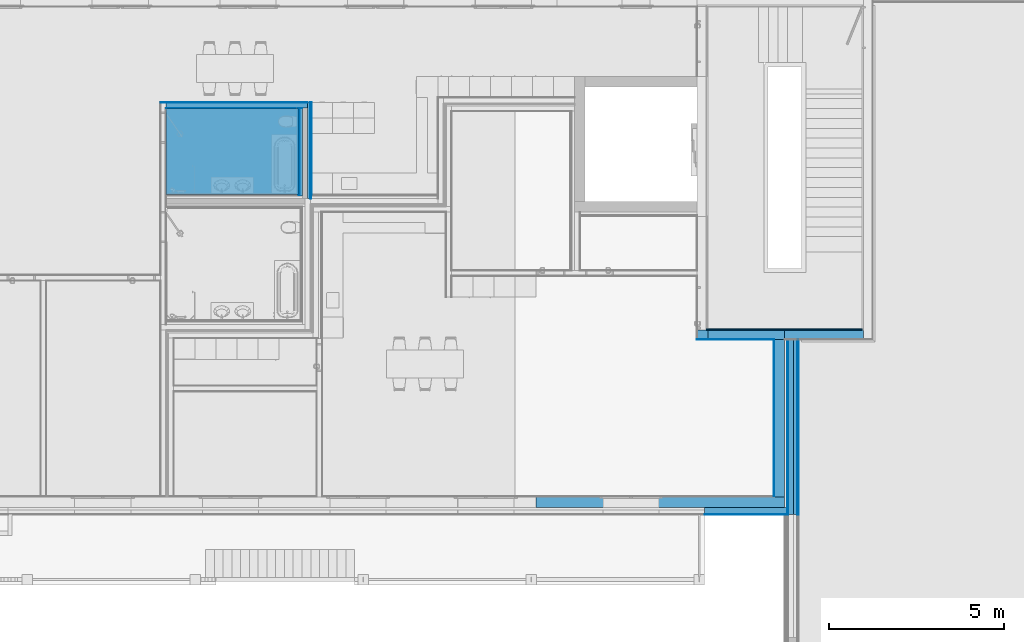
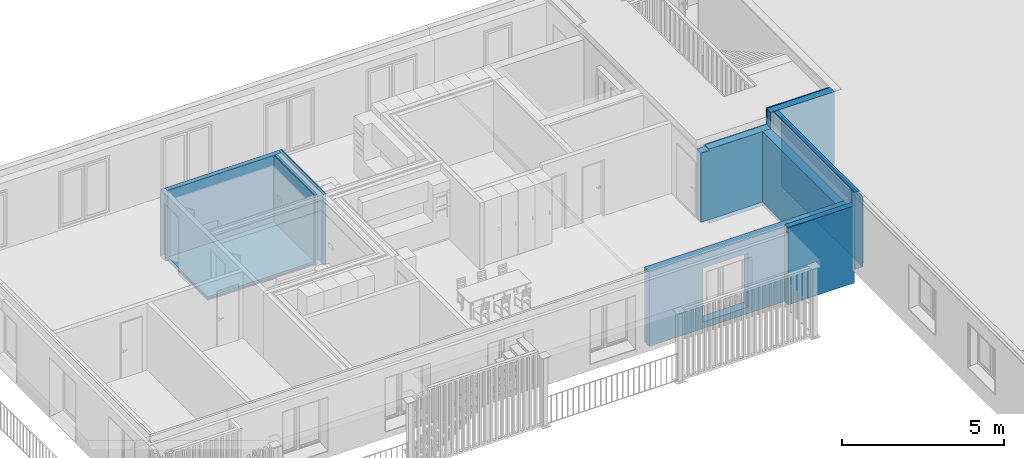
# One storey, part 13 of 34: 30 building element parts, 1 opening, 10 elements without a shape of their own.
"""IFC4 building model written with IfcOpenShell, lengths in millimetres."""

from ifc_helpers import new_model, entity, si_unit, converted_unit, derived_unit, direction, frame, origin_with_axes, place, context, subcontext, project, spatial, polygons, material, type_object, element, aggregate, save


model = new_model("IFC4")

# Units and contexts
model_context = context("Model", 3, precision=0.01, world=origin_with_axes(), true_north=direction((0.0, 1.0)))
body_context = subcontext(model_context, "Body", "Model", "MODEL_VIEW")
ifc_project = project(units=[si_unit("LENGTHUNIT", "METRE", prefix="MILLI"), si_unit("AREAUNIT", "SQUARE_METRE"), si_unit("VOLUMEUNIT", "CUBIC_METRE"), converted_unit("PLANEANGLEUNIT", "DEGREE", entity("IfcPlaneAngleMeasure", 0.0174532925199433), si_unit("PLANEANGLEUNIT", "RADIAN"), dimensions=[0, 0, 0, 0, 0, 0, 0]), converted_unit("TIMEUNIT", "Year", entity("IfcTimeMeasure", 31557600.0), si_unit("TIMEUNIT", "SECOND"), dimensions=[0, 0, 1, 0, 0, 0, 0]), si_unit("MASSUNIT", "GRAM", prefix="KILO"), si_unit("THERMODYNAMICTEMPERATUREUNIT", "DEGREE_CELSIUS"), si_unit("LUMINOUSINTENSITYUNIT", "LUMEN"), si_unit("ENERGYUNIT", "JOULE", prefix="MEGA"), derived_unit("THERMALCONDUCTANCEUNIT", [(si_unit("POWERUNIT", "WATT"), 1), (si_unit("LENGTHUNIT", "METRE"), -1), (si_unit("THERMODYNAMICTEMPERATUREUNIT", "KELVIN"), -1)]), derived_unit("SPECIFICHEATCAPACITYUNIT", [(si_unit("ENERGYUNIT", "JOULE"), 1), (si_unit("MASSUNIT", "GRAM", prefix="KILO"), -1), (si_unit("THERMODYNAMICTEMPERATUREUNIT", "KELVIN"), -1)]), derived_unit("MASSDENSITYUNIT", [(si_unit("MASSUNIT", "GRAM", prefix="KILO"), 1), (si_unit("VOLUMEUNIT", "CUBIC_METRE"), -1)])], contexts=[model_context])

# Site, building, storey
site_placement = place(None, origin_with_axes())
site = spatial("IfcSite", under=ifc_project, at=site_placement, Name="Gelände", CompositionType="ELEMENT")
building_placement = place(site_placement, origin_with_axes())
building = spatial("IfcBuilding", under=site, at=building_placement, Name="Gebäude", CompositionType="ELEMENT")
storey_placement = place(building_placement, frame((0.0, 0.0, 2900.0), z_axis=(0.0, 0.0, 1.0), x_axis=(1.0, 0.0, 0.0)))
storey = spatial("IfcBuildingStorey", under=building, at=storey_placement, Name="1.OG", CompositionType="ELEMENT", Elevation=2900.0)

# Wall, building element parts
wall_type_1 = type_object("IfcWallType", Name="Innenwand Typ 10 310", PredefinedType="NOTDEFINED")
wall_1_placement = place(storey_placement, frame((17919.99744477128, 28247.59728131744, 0.0), z_axis=(0.0, 0.0, 1.0), x_axis=(1.0, 0.0, 0.0)))
wall_1 = element("IfcWall", 1, at=wall_1_placement, inside=storey, type_object=wall_type_1, Name="Wand-014", PredefinedType="NOTDEFINED")
ifc_material_1 = material(Name="Sichtbeton")
building_element_part_1_placement = place(wall_1_placement, origin_with_axes())
building_element_part_1 = element("IfcBuildingElementPart", 2, at=building_element_part_1_placement, material=ifc_material_1, Name="Sichtbeton", PredefinedType="NOTDEFINED", context=body_context, shape_type="Tessellation", body=[
    polygons([(0.0, 0.0, 3399.999999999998), (0.0, -39.99999999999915, 3399.999999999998), (2209.0, -39.99999999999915, 3399.999999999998), (2209.0, 0.0, 3399.999999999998), (0.0, 0.0, 0.0), (0.0, -39.99999999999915, 0.0), (2209.0, -39.99999999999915, 0.0), (2209.0, 0.0, 0.0)], [[[1, 2, 3, 4]], [[5, 6, 2, 1]], [[6, 7, 3, 2]], [[7, 8, 4, 3]], [[5, 1, 4, 8]], [[6, 5, 8, 7]]], closed=True),
])
ifc_material_2 = material(Name="Beton bewehrt")
building_element_part_2_placement = place(wall_1_placement, origin_with_axes())
building_element_part_2 = element("IfcBuildingElementPart", 3, at=building_element_part_2_placement, material=ifc_material_2, Name="Beton bewehrt", PredefinedType="NOTDEFINED", context=body_context, shape_type="Tessellation", body=[
    polygons([(0.0, -39.99999999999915, 3399.999999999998), (0.0, -300.0000000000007, 3399.999999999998), (2248.999999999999, -300.0000000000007, 3399.999999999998), (2248.999999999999, -39.99999999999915, 3399.999999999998), (0.0, -39.99999999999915, 0.0), (0.0, -300.0000000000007, 0.0), (2248.999999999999, -300.0000000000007, 0.0), (2248.999999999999, -39.99999999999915, 0.0)], [[[1, 2, 3, 4]], [[5, 6, 2, 1]], [[6, 7, 3, 2]], [[7, 8, 4, 3]], [[5, 1, 4, 8]], [[6, 5, 8, 7]]], closed=True),
])
aggregate(wall_1, [building_element_part_1, building_element_part_2])

# Curtain wall, building element parts
curtain_wall_type = type_object("IfcCurtainWallType", Name="Fassade Typ 01 - Kompaktfassade 210", PredefinedType="NOTDEFINED")
curtain_wall_placement = place(storey_placement, frame((15637.99581849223, 22947.59674077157, 0.0), z_axis=(0.0, 0.0, 1.0), x_axis=(1.0, 0.0, 0.0)))
curtain_wall = element("IfcCurtainWall", 4, at=curtain_wall_placement, inside=storey, type_object=curtain_wall_type, Name="Wand-014", PredefinedType="NOTDEFINED")
ifc_material_3 = material(Name="Zementputz Aussen")
building_element_part_3_placement = place(curtain_wall_placement, origin_with_axes())
building_element_part_3 = element("IfcBuildingElementPart", 5, at=building_element_part_3_placement, material=ifc_material_3, Name="Zementputz Aussen", PredefinedType="NOTDEFINED", context=body_context, shape_type="Tessellation", body=[
    polygons([(2362.001626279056, 0.0, 2899.999999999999), (2362.001626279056, 10.00000000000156, 2899.999999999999), (0.0, 10.00000000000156, 2899.999999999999), (0.0, 0.0, 2899.999999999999), (2362.001626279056, 0.0, 0.0), (2362.001626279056, 10.00000000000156, 0.0), (0.0, 10.00000000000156, 0.0), (0.0, 0.0, 0.0)], [[[1, 2, 3, 4]], [[2, 1, 5, 6]], [[2, 6, 7, 3]], [[4, 3, 7, 8]], [[1, 4, 8, 5]], [[6, 5, 8, 7]]], closed=True),
])
ifc_material_4 = material(Name="Dämmung Aussen")
building_element_part_4_placement = place(curtain_wall_placement, origin_with_axes())
building_element_part_4 = element("IfcBuildingElementPart", 6, at=building_element_part_4_placement, material=ifc_material_4, Name="Dämmung Aussen", PredefinedType="NOTDEFINED", context=body_context, shape_type="Tessellation", body=[
    polygons([(0.0, 10.00000000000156, 2899.999999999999), (2362.001626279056, 10.00000000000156, 2899.999999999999), (2362.001626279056, 210.0000000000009, 2899.999999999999), (0.0, 210.0000000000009, 2899.999999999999), (2362.001626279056, 10.00000000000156, 0.0), (0.0, 10.00000000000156, 0.0), (2362.001626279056, 210.0000000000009, 0.0), (0.0, 210.0000000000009, 0.0)], [[[1, 2, 3, 4]], [[5, 2, 1, 6]], [[7, 3, 2, 5]], [[4, 3, 7, 8]], [[6, 1, 4, 8]], [[8, 7, 5, 6]]], closed=True),
])
aggregate(curtain_wall, [building_element_part_3, building_element_part_4])

# Wall, building element parts
wall_type_2 = type_object("IfcWallType", Name="Innenwand Typ 09 310", PredefinedType="NOTDEFINED")
wall_2_placement = place(storey_placement, frame((17919.99744477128, 28247.59728131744, 0.0), z_axis=(0.0, 0.0, 1.0), x_axis=(0.0, -1.0, 0.0)))
wall_2 = element("IfcWall", 7, at=wall_2_placement, inside=storey, type_object=wall_type_2, Name="Wand-014", PredefinedType="NOTDEFINED")
building_element_part_5_placement = place(wall_2_placement, origin_with_axes())
building_element_part_5 = element("IfcBuildingElementPart", 8, at=building_element_part_5_placement, material=ifc_material_2, Name="Beton bewehrt", PredefinedType="NOTDEFINED", context=body_context, shape_type="Tessellation", body=[
    polygons([(4790.000540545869, -300.0000000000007, 2799.999948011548), (4790.000540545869, -1.147749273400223e-05, 2799.999948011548), (300.0000000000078, 0.0, 2799.999948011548), (300.0000000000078, -300.0000000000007, 2799.999948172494), (4790.000540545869, -1.147749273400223e-05, 499.9999999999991), (4790.000540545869, -300.0000000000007, 0.0), (4790.000540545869, 0.0, 0.0), (300.0000000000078, 0.0, 0.0), (300.0000000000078, -300.0000000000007, 0.0)], [[[1, 2, 3, 4]], [[5, 2, 1, 6, 7]], [[2, 5, 7, 8, 3]], [[4, 3, 8, 9]], [[1, 4, 9, 6]], [[9, 8, 7, 6]]], closed=True),
])
ifc_material_5 = material(Name="Kalkzementputz Aussen")
building_element_part_6_placement = place(wall_2_placement, origin_with_axes())
building_element_part_6 = element("IfcBuildingElementPart", 9, at=building_element_part_6_placement, material=ifc_material_5, Name="Kalkzementputz Aussen", PredefinedType="NOTDEFINED", context=body_context, shape_type="Tessellation", body=[
    polygons([(4780.000540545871, -300.0000000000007, 149.9999999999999), (310.0000000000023, -299.9999999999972, 149.9999999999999), (310.0000000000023, -300.0000000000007, 2799.999948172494), (4780.000540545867, -300.0000000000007, 2799.999948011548), (310.0000000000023, -309.9999999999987, 149.9999999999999), (4780.000540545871, -310.0000000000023, 149.9999999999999), (310.0000000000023, -309.9999999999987, 2799.99994817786), (4780.000540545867, -310.0000000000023, 2799.999948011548)], [[[1, 2, 3, 4]], [[5, 2, 1, 6]], [[2, 5, 7, 3]], [[7, 8, 4, 3]], [[6, 1, 4, 8]], [[5, 6, 8, 7]]], closed=True),
])
aggregate(wall_2, [building_element_part_5, building_element_part_6])

wall_3_placement = place(storey_placement, frame((15728.99744477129, 28247.59728131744, 0.0), z_axis=(0.0, 0.0, 1.0), x_axis=(1.0, 0.0, 0.0)))
wall_3 = element("IfcWall", 10, at=wall_3_placement, inside=storey, type_object=wall_type_1, Name="Wand-014", PredefinedType="NOTDEFINED")
building_element_part_7_placement = place(wall_3_placement, origin_with_axes())
building_element_part_7 = element("IfcBuildingElementPart", 11, at=building_element_part_7_placement, material=ifc_material_1, Name="Sichtbeton", PredefinedType="NOTDEFINED", context=body_context, shape_type="Tessellation", body=[
    polygons([(-40.00000000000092, 0.0, 149.9999999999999), (-40.00000000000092, 0.0, 2750.0), (0.0, 0.0, 2750.0), (0.0, 0.0, 2799.999949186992), (2190.999999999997, 0.0, 2799.999948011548), (2190.999999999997, 0.0, 0.0), (0.0, 0.0, 0.0), (0.0, 0.0, 149.9999999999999), (-40.00000000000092, -39.99999999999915, 2750.0), (-40.00000000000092, -39.99999999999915, 149.9999999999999), (0.0, -39.99999999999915, 2750.0), (0.0, -39.99999999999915, 2799.999949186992), (2190.999999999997, -39.99999999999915, 2799.999948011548), (2190.999999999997, -39.99999999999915, 0.0), (0.0, -39.99999999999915, 0.0), (0.0, -39.99999999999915, 149.9999999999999)], [[[1, 2, 3, 4, 5, 6, 7, 8]], [[9, 2, 1, 10]], [[2, 9, 11, 3]], [[11, 12, 4, 3]], [[5, 4, 12, 13]], [[13, 14, 6, 5]], [[14, 15, 7, 6]], [[16, 8, 7, 15]], [[10, 1, 8, 16]], [[9, 10, 16, 15, 14, 13, 12, 11]]], closed=True),
])
building_element_part_8_placement = place(wall_3_placement, origin_with_axes())
building_element_part_8 = element("IfcBuildingElementPart", 12, at=building_element_part_8_placement, material=ifc_material_2, Name="Beton bewehrt", PredefinedType="NOTDEFINED", context=body_context, shape_type="Tessellation", body=[
    polygons([(-300.0000000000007, -39.99999999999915, 149.9999999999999), (-300.0000000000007, -39.99999999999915, 2750.0), (0.0, -39.99999999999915, 2750.0), (0.0, -39.99999999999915, 2799.999949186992), (2190.999999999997, -39.99999999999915, 2799.999948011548), (2190.999999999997, -39.99999999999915, 0.0), (0.0, -39.99999999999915, 0.0), (0.0, -39.99999999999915, 149.9999999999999), (-300.0000000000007, -300.0000000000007, 2750.0), (-300.0000000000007, -300.0000000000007, 149.9999999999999), (0.0, -300.0000000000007, 2750.0), (0.0, -300.0000000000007, 2799.999949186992), (2190.999999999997, -300.0000000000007, 2799.999948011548), (2190.999999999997, -300.0000000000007, 0.0), (0.0, -300.0000000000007, 0.0), (0.0, -300.0000000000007, 149.9999999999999)], [[[1, 2, 3, 4, 5, 6, 7, 8]], [[9, 2, 1, 10]], [[2, 9, 11, 3]], [[11, 12, 4, 3]], [[5, 4, 12, 13]], [[13, 14, 6, 5]], [[14, 15, 7, 6]], [[16, 8, 7, 15]], [[10, 1, 8, 16]], [[9, 10, 16, 15, 14, 13, 12, 11]]], closed=True),
])
building_element_part_9_placement = place(wall_3_placement, origin_with_axes())
building_element_part_9 = element("IfcBuildingElementPart", 13, at=building_element_part_9_placement, material=ifc_material_5, Name="Kalkzementputz Aussen", PredefinedType="NOTDEFINED", context=body_context, shape_type="Tessellation", body=[
    polygons([(1891.0, -309.9999999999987, 149.9999999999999), (1891.0, -299.9999999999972, 149.9999999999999), (1890.999999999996, -300.0000000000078, 2799.999948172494), (1890.999999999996, -309.9999999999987, 2799.999948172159), (0.0, -299.9999999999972, 149.9999999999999), (0.0, -309.9999999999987, 149.9999999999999), (-310.0000000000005, -309.9999999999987, 149.9999999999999), (-310.0000000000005, -300.0000000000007, 149.9999999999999), (-310.0000000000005, -300.0000000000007, 2750.0), (0.0, -300.0000000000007, 2750.0), (0.0, -300.0000000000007, 2799.999949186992), (0.0, -309.9999999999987, 2799.999949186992), (0.0, -309.9999999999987, 2750.0), (-310.0000000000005, -309.9999999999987, 2750.0)], [[[1, 2, 3, 4]], [[5, 2, 1, 6, 7, 8]], [[2, 5, 8, 9, 10, 11, 3]], [[12, 4, 3, 11]], [[6, 1, 4, 12, 13, 14, 7]], [[8, 7, 14, 9]], [[10, 9, 14, 13]], [[10, 13, 12, 11]]], closed=True),
])
aggregate(wall_3, [building_element_part_7, building_element_part_8, building_element_part_9])

# Covering, building element parts
covering_type = type_object("IfcCoveringType", Name="Bodenaufbau Typ 02 150", PredefinedType="NOTDEFINED")
covering_placement = place(storey_placement, frame((282.9958184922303, 32077.59728131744, 0.0), z_axis=(0.0, 0.0, 1.0), x_axis=(1.0, 0.0, 0.0)))
covering = element("IfcCovering", 14, at=covering_placement, inside=storey, type_object=covering_type, Name="Decke-007", PredefinedType="NOTDEFINED")
ifc_material_6 = material(Name="Keramik")
building_element_part_10_placement = place(covering_placement, origin_with_axes())
building_element_part_10 = element("IfcBuildingElementPart", 15, at=building_element_part_10_placement, material=ifc_material_6, Name="Keramik", PredefinedType="NOTDEFINED", context=body_context, shape_type="Tessellation", body=[
    polygons([(3767.777730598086, 0.0, 134.9999999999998), (3767.777730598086, 0.0, 149.9999999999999), (0.0, 0.0, 149.9999999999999), (0.0, 0.0, 134.9999999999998), (3767.777730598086, 2456.466406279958, 134.9999999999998), (3767.777730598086, 2456.466406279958, 149.9999999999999), (0.0, 2456.466406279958, 149.9999999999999), (0.0, 2456.466406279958, 134.9999999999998)], [[[1, 2, 3, 4]], [[5, 6, 2, 1]], [[3, 2, 6, 7]], [[4, 3, 7, 8]], [[4, 8, 5, 1]], [[8, 7, 6, 5]]], closed=True),
])
ifc_material_7 = material(Name="Unterlagsboden")
building_element_part_11_placement = place(covering_placement, origin_with_axes())
building_element_part_11 = element("IfcBuildingElementPart", 16, at=building_element_part_11_placement, material=ifc_material_7, Name="Unterlagsboden", PredefinedType="NOTDEFINED", context=body_context, shape_type="Tessellation", body=[
    polygons([(3767.777730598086, 0.0, 79.99999999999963), (3767.777730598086, 0.0, 134.9999999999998), (0.0, 0.0, 134.9999999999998), (0.0, 0.0, 79.99999999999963), (3767.777730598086, 2456.466406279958, 79.99999999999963), (3767.777730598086, 2456.466406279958, 134.9999999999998), (0.0, 2456.466406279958, 134.9999999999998), (0.0, 2456.466406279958, 79.99999999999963)], [[[1, 2, 3, 4]], [[5, 6, 2, 1]], [[3, 2, 6, 7]], [[4, 3, 7, 8]], [[4, 8, 5, 1]], [[8, 7, 6, 5]]], closed=True),
])
ifc_material_8 = material(Name="Trittschalldämmung")
building_element_part_12_placement = place(covering_placement, origin_with_axes())
building_element_part_12 = element("IfcBuildingElementPart", 17, at=building_element_part_12_placement, material=ifc_material_8, Name="Trittschalldämmung", PredefinedType="NOTDEFINED", context=body_context, shape_type="Tessellation", body=[
    polygons([(3767.777730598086, 0.0, 50.00000000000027), (3767.777730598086, 0.0, 80.00000000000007), (0.0, 0.0, 80.00000000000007), (0.0, 0.0, 50.00000000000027), (3767.777730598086, 2456.466406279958, 50.00000000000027), (3767.777730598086, 2456.466406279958, 80.00000000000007), (0.0, 2456.466406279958, 80.00000000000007), (0.0, 2456.466406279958, 50.00000000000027)], [[[1, 2, 3, 4]], [[5, 6, 2, 1]], [[3, 2, 6, 7]], [[4, 3, 7, 8]], [[4, 8, 5, 1]], [[8, 7, 6, 5]]], closed=True),
])
ifc_material_9 = material(Name="Dämmung Innen")
building_element_part_13_placement = place(covering_placement, origin_with_axes())
building_element_part_13 = element("IfcBuildingElementPart", 18, at=building_element_part_13_placement, material=ifc_material_9, Name="Dämmung Innen", PredefinedType="NOTDEFINED", context=body_context, shape_type="Tessellation", body=[
    polygons([(0.0, 0.0, 0.0), (3767.777730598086, 0.0, 0.0), (3767.777730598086, 0.0, 49.99999999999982), (0.0, 0.0, 49.99999999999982), (0.0, 2456.466406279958, 0.0), (3767.777730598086, 2456.466406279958, 0.0), (3767.777730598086, 2456.466406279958, 49.99999999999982), (0.0, 2456.466406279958, 49.99999999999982)], [[[1, 2, 3, 4]], [[1, 5, 6, 2]], [[2, 6, 7, 3]], [[4, 3, 7, 8]], [[5, 1, 4, 8]], [[6, 5, 8, 7]]], closed=True),
])
aggregate(covering, [building_element_part_10, building_element_part_11, building_element_part_12, building_element_part_13])

# Wall, building element parts
wall_type_3 = type_object("IfcWallType", Name="Innenwand Typ 05 170", PredefinedType="NOTDEFINED")
wall_4_placement = place(storey_placement, frame((122.9958184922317, 34704.06370406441, 0.0), z_axis=(0.0, 0.0, 1.0), x_axis=(1.0, 0.0, 0.0)))
wall_4 = element("IfcWall", 19, at=wall_4_placement, inside=storey, type_object=wall_type_3, Name="Wand-014", PredefinedType="NOTDEFINED")
building_element_part_14_placement = place(wall_4_placement, origin_with_axes())
building_element_part_14 = element("IfcBuildingElementPart", 20, at=building_element_part_14_placement, material=ifc_material_5, Name="Kalkzementputz Aussen", PredefinedType="NOTDEFINED", context=body_context, shape_type="Tessellation", body=[
    polygons([(4192.777730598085, -9.99999999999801, 149.9999999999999), (4192.777730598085, 0.0, 149.9999999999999), (4192.777730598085, 0.0, 2649.999948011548), (4192.777730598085, -9.99999999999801, 2649.999948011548), (0.0, -9.99999999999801, 149.9999999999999), (0.0, 0.0, 149.9999999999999), (0.0, 0.0, 2649.999948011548), (0.0, -9.99999999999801, 2649.999948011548)], [[[1, 2, 3, 4]], [[2, 1, 5, 6]], [[2, 6, 7, 3]], [[4, 3, 7, 8]], [[1, 4, 8, 5]], [[6, 5, 8, 7]]], closed=True),
])
ifc_material_10 = material(Name="MW, Backstein")
building_element_part_15_placement = place(wall_4_placement, origin_with_axes())
building_element_part_15 = element("IfcBuildingElementPart", 21, at=building_element_part_15_placement, material=ifc_material_10, Name="MW, Backstein", PredefinedType="NOTDEFINED", context=body_context, shape_type="Tessellation", body=[
    polygons([(4192.777730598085, -9.99999999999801, 2649.999948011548), (150.0, -9.99999999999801, 2649.999948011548), (150.0, -159.9999999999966, 2649.999948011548), (4192.777730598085, -159.9999999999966, 2649.999948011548), (4192.777730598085, -9.99999999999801, 0.0), (150.0, -9.99999999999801, 0.0), (150.0, -159.9999999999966, 0.0), (4192.777730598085, -159.9999999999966, 0.0)], [[[1, 2, 3, 4]], [[5, 6, 2, 1]], [[3, 2, 6, 7]], [[4, 3, 7, 8]], [[4, 8, 5, 1]], [[8, 7, 6, 5]]], closed=True),
])
building_element_part_16_placement = place(wall_4_placement, origin_with_axes())
building_element_part_16 = element("IfcBuildingElementPart", 22, at=building_element_part_16_placement, material=ifc_material_5, Name="Kalkzementputz Aussen", PredefinedType="NOTDEFINED", context=body_context, shape_type="Tessellation", body=[
    polygons([(4042.777730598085, -170.0000000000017, 149.9999999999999), (4042.777730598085, -159.9999999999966, 149.9999999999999), (4042.777730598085, -159.9999999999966, 2649.999948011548), (4042.777730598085, -170.0000000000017, 2649.999948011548), (3927.777730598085, -159.9999999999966, 149.9999999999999), (3927.777730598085, -170.0000000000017, 149.9999999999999), (3927.777730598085, -159.9999999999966, 0.0), (160.0000000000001, -159.9999999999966, 0.0), (160.0000000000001, -159.9999999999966, 2649.999948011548), (160.0000000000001, -170.0000000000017, 2649.999948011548), (160.0000000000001, -170.0000000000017, 0.0), (3927.777730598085, -170.0000000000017, 0.0)], [[[1, 2, 3, 4]], [[5, 2, 1, 6]], [[5, 7, 8, 9, 3, 2]], [[4, 3, 9, 10]], [[6, 1, 4, 10, 11, 12]], [[5, 6, 12, 7]], [[7, 12, 11, 8]], [[11, 10, 9, 8]]], closed=True),
])
aggregate(wall_4, [building_element_part_14, building_element_part_15, building_element_part_16])

wall_type_4 = type_object("IfcWallType", Name="Vorsatzschale 01 115", PredefinedType="NOTDEFINED")
wall_5_placement = place(storey_placement, frame((4050.773549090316, 32077.59728131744, 0.0), z_axis=(0.0, 0.0, 1.0), x_axis=(0.0, 1.0, 0.0)))
wall_5 = element("IfcWall", 23, at=wall_5_placement, inside=storey, type_object=wall_type_4, Name="Wand-014", PredefinedType="NOTDEFINED")
building_element_part_17_placement = place(wall_5_placement, origin_with_axes())
building_element_part_17 = element("IfcBuildingElementPart", 24, at=building_element_part_17_placement, material=ifc_material_5, Name="Kalkzementputz Aussen", PredefinedType="NOTDEFINED", context=body_context, shape_type="Tessellation", body=[
    polygons([(2456.466422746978, -9.999999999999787, 2649.999948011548), (2456.466422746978, 0.0, 2649.999948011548), (0.0, 0.0, 2649.999948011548), (0.0, -9.999999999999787, 2649.999948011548), (2456.466422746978, -9.999999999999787, 0.0), (2456.466422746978, 0.0, 0.0), (0.0, 0.0, 0.0), (0.0, -9.999999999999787, 0.0)], [[[1, 2, 3, 4]], [[1, 5, 6, 2]], [[2, 6, 7, 3]], [[4, 3, 7, 8]], [[5, 1, 4, 8]], [[6, 5, 8, 7]]], closed=True),
])
ifc_material_11 = material(Name="Gipskartonplatte GKP")
building_element_part_18_placement = place(wall_5_placement, origin_with_axes())
building_element_part_18 = element("IfcBuildingElementPart", 25, at=building_element_part_18_placement, material=ifc_material_11, Name="Gipskartonplatte GKP", PredefinedType="NOTDEFINED", context=body_context, shape_type="Tessellation", body=[
    polygons([(2456.466422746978, -22.49999999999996, 2649.999948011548), (2456.466422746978, -9.999999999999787, 2649.999948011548), (-9.99999999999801, -9.999999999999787, 2649.999948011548), (-9.99999999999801, -22.49999999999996, 2649.999948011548), (2456.466422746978, -22.49999999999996, 0.0), (2456.466422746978, -9.999999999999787, 0.0), (-9.99999999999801, -9.999999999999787, 0.0), (-9.99999999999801, -22.49999999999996, 0.0)], [[[1, 2, 3, 4]], [[1, 5, 6, 2]], [[2, 6, 7, 3]], [[4, 3, 7, 8]], [[5, 1, 4, 8]], [[6, 5, 8, 7]]], closed=True),
])
building_element_part_19_placement = place(wall_5_placement, origin_with_axes())
building_element_part_19 = element("IfcBuildingElementPart", 26, at=building_element_part_19_placement, material=ifc_material_11, Name="Gipskartonplatte GKP", PredefinedType="NOTDEFINED", context=body_context, shape_type="Tessellation", body=[
    polygons([(2456.466422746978, -35.00000000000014, 2649.999948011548), (2456.466422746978, -22.49999999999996, 2649.999948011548), (-22.50000000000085, -22.49999999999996, 2649.999948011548), (-22.50000000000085, -35.00000000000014, 2649.999948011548), (2456.466422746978, -35.00000000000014, 0.0), (2456.466422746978, -22.49999999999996, 0.0), (-22.50000000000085, -22.49999999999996, 0.0), (-22.50000000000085, -35.00000000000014, 0.0)], [[[1, 2, 3, 4]], [[1, 5, 6, 2]], [[2, 6, 7, 3]], [[4, 3, 7, 8]], [[5, 1, 4, 8]], [[6, 5, 8, 7]]], closed=True),
])
ifc_material_12 = material(Name="Ständer Konstruktion gedämmt")
building_element_part_20_placement = place(wall_5_placement, origin_with_axes())
building_element_part_20 = element("IfcBuildingElementPart", 27, at=building_element_part_20_placement, material=ifc_material_12, Name="Ständer Konstruktion gedämmt", PredefinedType="NOTDEFINED", context=body_context, shape_type="Tessellation", body=[
    polygons([(2456.466422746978, -115.0000000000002, 2649.999948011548), (2456.466422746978, -35.00000000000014, 2649.999948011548), (-34.99999999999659, -35.00000000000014, 2649.999948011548), (-34.99999999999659, -115.0000000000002, 2649.999948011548), (2456.466422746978, -115.0000000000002, 0.0), (2456.466422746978, -35.00000000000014, 0.0), (-34.99999999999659, -35.00000000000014, 0.0), (-34.99999999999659, -115.0000000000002, 0.0)], [[[1, 2, 3, 4]], [[1, 5, 6, 2]], [[2, 6, 7, 3]], [[4, 3, 7, 8]], [[5, 1, 4, 8]], [[6, 5, 8, 7]]], closed=True),
])
aggregate(wall_5, [building_element_part_17, building_element_part_18, building_element_part_19, building_element_part_20])

wall_6_placement = place(storey_placement, frame((4430.773549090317, 31962.59728131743, 0.0), z_axis=(0.0, 0.0, 1.0), x_axis=(0.0, 1.0, 0.0)))
wall_6 = element("IfcWall", 28, at=wall_6_placement, inside=storey, type_object=wall_type_4, Name="Wand-014", PredefinedType="NOTDEFINED")
building_element_part_21_placement = place(wall_6_placement, origin_with_axes())
building_element_part_21 = element("IfcBuildingElementPart", 29, at=building_element_part_21_placement, material=ifc_material_12, Name="Ständer Konstruktion gedämmt", PredefinedType="NOTDEFINED", context=body_context, shape_type="Tessellation", body=[
    polygons([(2741.466422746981, 115.0000000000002, 0.0), (2741.466422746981, 35.00000000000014, 0.0), (0.0, 35.00000000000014, 0.0), (0.0, 115.0000000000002, 0.0), (2741.466422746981, 115.0000000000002, 2649.999948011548), (2741.466422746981, 35.00000000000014, 2649.999948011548), (0.0, 35.00000000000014, 2649.999948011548), (0.0, 115.0000000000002, 2649.999948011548)], [[[1, 2, 3, 4]], [[1, 5, 6, 2]], [[2, 6, 7, 3]], [[4, 3, 7, 8]], [[5, 1, 4, 8]], [[6, 5, 8, 7]]], closed=True),
])
building_element_part_22_placement = place(wall_6_placement, origin_with_axes())
building_element_part_22 = element("IfcBuildingElementPart", 30, at=building_element_part_22_placement, material=ifc_material_11, Name="Gipskartonplatte GKP", PredefinedType="NOTDEFINED", context=body_context, shape_type="Tessellation", body=[
    polygons([(2741.466422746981, 35.00000000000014, 0.0), (2741.466422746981, 22.49999999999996, 0.0), (0.0, 22.49999999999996, 0.0), (0.0, 35.00000000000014, 0.0), (2741.466422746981, 35.00000000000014, 2649.999948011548), (2741.466422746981, 22.49999999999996, 2649.999948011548), (0.0, 22.49999999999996, 2649.999948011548), (0.0, 35.00000000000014, 2649.999948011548)], [[[1, 2, 3, 4]], [[1, 5, 6, 2]], [[2, 6, 7, 3]], [[4, 3, 7, 8]], [[5, 1, 4, 8]], [[6, 5, 8, 7]]], closed=True),
])
building_element_part_23_placement = place(wall_6_placement, origin_with_axes())
building_element_part_23 = element("IfcBuildingElementPart", 31, at=building_element_part_23_placement, material=ifc_material_5, Name="Kalkzementputz Aussen", PredefinedType="NOTDEFINED", context=body_context, shape_type="Tessellation", body=[
    polygons([(104.9999999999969, 0.0, 149.9999999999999), (2741.466422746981, 0.0, 149.9999999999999), (2741.466422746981, 0.0, 2649.999948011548), (104.9999999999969, 0.0, 2649.999948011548), (2741.466422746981, 9.999999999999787, 149.9999999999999), (104.9999999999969, 9.999999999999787, 149.9999999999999), (2741.466422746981, 9.999999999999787, 2649.999948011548), (104.9999999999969, 9.999999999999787, 2649.999948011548)], [[[1, 2, 3, 4]], [[5, 2, 1, 6]], [[2, 5, 7, 3]], [[7, 8, 4, 3]], [[6, 1, 4, 8]], [[5, 6, 8, 7]]], closed=True),
])
building_element_part_24_placement = place(wall_6_placement, origin_with_axes())
building_element_part_24 = element("IfcBuildingElementPart", 32, at=building_element_part_24_placement, material=ifc_material_11, Name="Gipskartonplatte GKP", PredefinedType="NOTDEFINED", context=body_context, shape_type="Tessellation", body=[
    polygons([(0.0, 22.49999999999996, 0.0), (2741.466422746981, 22.49999999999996, 0.0), (2741.466422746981, 9.999999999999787, 0.0), (0.0, 9.999999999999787, 0.0), (0.0, 22.49999999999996, 2649.999948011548), (2741.466422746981, 22.49999999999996, 2649.999948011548), (2741.466422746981, 9.999999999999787, 2649.999948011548), (0.0, 9.999999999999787, 2649.999948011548)], [[[1, 2, 3, 4]], [[5, 6, 2, 1]], [[3, 2, 6, 7]], [[4, 3, 7, 8]], [[5, 1, 4, 8]], [[8, 7, 6, 5]]], closed=True),
])
aggregate(wall_6, [building_element_part_21, building_element_part_22, building_element_part_23, building_element_part_24])

wall_type_5 = type_object("IfcWallType", Name="Aussenwand Typ 01 318", PredefinedType="NOTDEFINED")
wall_7_placement = place(storey_placement, frame((17999.99744477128, 27947.49728131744, 500.0), z_axis=(0.0, 0.0, 1.0), x_axis=(0.0, -1.0, 0.0)))
wall_7 = element("IfcWall", 33, at=wall_7_placement, inside=storey, type_object=wall_type_5, Name="Wand-014", PredefinedType="NOTDEFINED")
ifc_material_13 = material(Name="Verputz Innen")
building_element_part_25_placement = place(wall_7_placement, origin_with_axes())
building_element_part_25 = element("IfcBuildingElementPart", 34, at=building_element_part_25_placement, material=ifc_material_13, Name="Verputz Innen", PredefinedType="NOTDEFINED", context=body_context, shape_type="Tessellation", body=[
    polygons([(5000.01281859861, 317.9999999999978, 149.9999999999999), (0.0, 318.0000000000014, 149.9999999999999), (0.0, 318.0000000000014, 2643.999948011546), (5000.01281859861, 317.9999999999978, 2643.999948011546), (0.0, 307.9999999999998, 149.9999999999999), (5000.01281859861, 307.9999999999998, 149.9999999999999), (0.0, 307.9999999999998, 2643.999948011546), (5000.01281859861, 307.9999999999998, 2643.999948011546)], [[[1, 2, 3, 4]], [[5, 2, 1, 6]], [[2, 5, 7, 3]], [[4, 3, 7, 8]], [[6, 1, 4, 8]], [[5, 6, 8, 7]]], closed=True),
])
ifc_material_14 = material(Name="Gipsfaserplatte GFP")
building_element_part_26_placement = place(wall_7_placement, origin_with_axes())
building_element_part_26 = element("IfcBuildingElementPart", 35, at=building_element_part_26_placement, material=ifc_material_14, Name="Gipsfaserplatte GFP", PredefinedType="NOTDEFINED", context=body_context, shape_type="Tessellation", body=[
    polygons([(0.0, 292.9999999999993, 2643.999948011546), (0.0, 307.9999999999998, 2643.999948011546), (0.0, 307.9999999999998, 0.0), (0.0, 292.9999999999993, 0.0), (5000.01281859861, 307.9999999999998, 2643.999948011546), (5000.01281859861, 292.9999999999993, 2643.999948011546), (5000.01281859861, 307.9999999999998, 0.0), (5000.01281859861, 292.9999999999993, 0.0)], [[[1, 2, 3, 4]], [[5, 2, 1, 6]], [[2, 5, 7, 3]], [[3, 7, 8, 4]], [[6, 1, 4, 8]], [[5, 6, 8, 7]]], closed=True),
])
building_element_part_27_placement = place(wall_7_placement, origin_with_axes())
building_element_part_27 = element("IfcBuildingElementPart", 36, at=building_element_part_27_placement, material=ifc_material_14, Name="Gipsfaserplatte GFP", PredefinedType="NOTDEFINED", context=body_context, shape_type="Tessellation", body=[
    polygons([(0.0, 277.9999999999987, 2643.999948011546), (0.0, 292.9999999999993, 2643.999948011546), (0.0, 292.9999999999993, 0.0), (0.0, 277.9999999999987, 0.0), (5000.01281859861, 292.9999999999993, 2643.999948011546), (5000.01281859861, 277.9999999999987, 2643.999948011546), (5000.01281859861, 292.9999999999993, 0.0), (5000.01281859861, 277.9999999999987, 0.0)], [[[1, 2, 3, 4]], [[5, 2, 1, 6]], [[2, 5, 7, 3]], [[3, 7, 8, 4]], [[6, 1, 4, 8]], [[5, 6, 8, 7]]], closed=True),
])
building_element_part_28_placement = place(wall_7_placement, origin_with_axes())
building_element_part_28 = element("IfcBuildingElementPart", 37, at=building_element_part_28_placement, material=ifc_material_12, Name="Ständer Konstruktion gedämmt", PredefinedType="NOTDEFINED", context=body_context, shape_type="Tessellation", body=[
    polygons([(0.0, 177.9999999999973, 2643.999948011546), (0.0, 277.9999999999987, 2643.999948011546), (0.0, 277.9999999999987, 0.0), (0.0, 18.00000000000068, 0.0), (0.0, 18.00000000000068, 2899.999999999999), (0.0, 177.9999999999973, 2899.999948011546), (5000.01281859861, 277.9999999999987, 2643.999948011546), (5000.01281859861, 177.9999999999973, 2643.999948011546), (5000.01281859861, 277.9999999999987, 0.0), (5000.01281859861, 18.00000000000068, 0.0), (5000.01281859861, 18.00000000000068, 2899.999999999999), (5000.01281859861, 177.9999999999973, 2899.999948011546)], [[[1, 2, 3, 4, 5, 6]], [[7, 2, 1, 8]], [[2, 7, 9, 3]], [[3, 9, 10, 4]], [[4, 10, 11, 5]], [[12, 6, 5, 11]], [[8, 1, 6, 12]], [[8, 12, 11, 10, 9, 7]]], closed=True),
])
ifc_material_15 = material(Name="Grobspanplatte-OSB")
building_element_part_29_placement = place(wall_7_placement, origin_with_axes())
building_element_part_29 = element("IfcBuildingElementPart", 38, at=building_element_part_29_placement, material=ifc_material_15, Name="Grobspanplatte-OSB", PredefinedType="NOTDEFINED", context=body_context, shape_type="Tessellation", body=[
    polygons([(5000.01281859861, 18.00000000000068, 0.0), (5000.01281859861, 0.0, 0.0), (0.0, 0.0, 0.0), (0.0, 18.00000000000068, 0.0), (5000.01281859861, 18.00000000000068, 2899.999999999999), (5000.01281859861, 0.0, 2899.999999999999), (0.0, 0.0, 2899.999999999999), (0.0, 18.00000000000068, 2899.999999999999)], [[[1, 2, 3, 4]], [[1, 5, 6, 2]], [[2, 6, 7, 3]], [[4, 3, 7, 8]], [[5, 1, 4, 8]], [[6, 5, 8, 7]]], closed=True),
])
aggregate(wall_7, [building_element_part_25, building_element_part_26, building_element_part_27, building_element_part_28, building_element_part_29])

# Wall, opening, building element part
wall_type_6 = type_object("IfcWallType", Name="Aussenwand Typ 06 310", PredefinedType="NOTDEFINED")
wall_8_placement = place(storey_placement, frame((10828.99744477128, 23157.59674077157, 0.0), z_axis=(0.0, 0.0, 1.0), x_axis=(1.0, 0.0, 0.0)))
wall_8 = element("IfcWall", 39, at=wall_8_placement, inside=storey, type_object=wall_type_6, Name="Wand-014", PredefinedType="NOTDEFINED")
opening_placement = place(wall_8_placement, frame((2711.998373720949, 0.0, 309.999948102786), z_axis=(0.0, 0.0, 1.0), x_axis=(1.0, 0.0, 0.0)))
element("IfcOpeningElement", 40, at=opening_placement, cuts=wall_8, Name="Fenster-004", context=body_context, identifier="Reference", shape_type="Tessellation", body=[
    polygons([(-799.999999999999, 0.0, 1961.999999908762), (800.0000000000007, 0.0, 1961.999999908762), (800.0000000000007, -1.000000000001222, 1961.999999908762), (801.9999999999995, -1.000000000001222, 1961.999999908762), (801.9999999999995, 250.0, 1961.999999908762), (-801.9999999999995, 250.0, 1961.999999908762), (-801.9999999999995, -1.000000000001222, 1961.999999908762), (-799.999999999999, -1.000000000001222, 1961.999999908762), (-799.999999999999, 0.0, 2249.999999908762), (800.0000000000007, 0.0, 2249.999999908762), (800.0000000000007, -149.9999999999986, 2249.999999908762), (800.0000000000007, -149.9999999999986, 1959.999999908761), (800.0000000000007, -1.000000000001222, 1959.999999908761), (-799.999999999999, -1.000000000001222, 1959.999999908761), (-801.9999999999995, -1.000000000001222, -60.00000000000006), (801.9999999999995, -1.000000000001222, -60.00000000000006), (801.9999999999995, 250.0, -60.00000000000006), (901.9999999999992, 250.0, -60.00000000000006), (901.9999999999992, 250.0, 2061.999999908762), (-901.9999999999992, 250.0, 2061.999999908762), (-901.9999999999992, 250.0, -60.00000000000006), (-801.9999999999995, 250.0, -60.00000000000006), (-799.999999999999, -149.9999999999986, 1959.999999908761), (-799.999999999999, -149.9999999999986, 2249.999999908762), (-901.9999999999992, 310.9999999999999, -60.00000000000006), (901.9999999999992, 310.9999999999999, -60.00000000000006), (901.9999999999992, 310.9999999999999, 2061.999999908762), (-901.9999999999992, 310.9999999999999, 2061.999999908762)], [[[1, 2, 3, 4, 5, 6, 7, 8]], [[2, 1, 9, 10]], [[3, 2, 10, 11, 12, 13]], [[14, 8, 7, 15, 16, 4, 3, 13]], [[17, 5, 4, 16]], [[6, 5, 17, 18, 19, 20, 21, 22]], [[6, 22, 15, 7]], [[1, 8, 14, 23, 24, 9]], [[9, 24, 11, 10]], [[24, 23, 12, 11]], [[14, 13, 12, 23]], [[22, 17, 16, 15]], [[17, 22, 21, 25, 26, 18]], [[19, 18, 26, 27]], [[20, 19, 27, 28]], [[21, 20, 28, 25]], [[27, 26, 25, 28]]], closed=True),
])
building_element_part_30_placement = place(wall_8_placement, origin_with_axes())
building_element_part_30 = element("IfcBuildingElementPart", 41, at=building_element_part_30_placement, material=ifc_material_2, Name="Beton bewehrt", PredefinedType="NOTDEFINED", context=body_context, shape_type="Tessellation", body=[
    polygons([(1909.998373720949, 250.0, 2271.999948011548), (3513.998373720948, 250.0, 2271.999948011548), (3513.998373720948, 0.0, 2271.999948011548), (1909.998373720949, 0.0, 2271.999948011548), (3513.998373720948, 250.0, 249.9999481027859), (1909.998373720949, 250.0, 249.9999481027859), (1809.99837372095, 250.0, 249.9999481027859), (1809.99837372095, 250.0, 2371.999948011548), (3613.998373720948, 250.0, 2371.999948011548), (3613.998373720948, 250.0, 249.9999481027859), (3513.998373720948, 0.0, 249.9999481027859), (7170.999999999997, 0.0, 499.9999999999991), (7090.999988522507, 0.0, 499.9999999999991), (7090.999988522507, 0.0, 2799.999948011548), (0.0, 0.0, 2799.999948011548), (0.0, 0.0, 0.0), (7170.999999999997, 0.0, 0.0), (1909.998373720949, 0.0, 249.9999481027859), (3613.998373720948, 300.0000000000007, 249.9999481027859), (1809.99837372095, 300.0000000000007, 249.9999481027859), (1809.99837372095, 300.0000000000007, 2371.999948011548), (3613.998373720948, 300.0000000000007, 2371.999948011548), (7170.999999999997, 300.0000000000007, 499.9999999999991), (7090.999988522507, 300.0000000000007, 499.9999999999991), (7090.999988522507, 300.0000000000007, 2799.999948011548), (0.0, 300.0000000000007, 2799.999948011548), (0.0, 300.0000000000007, 0.0), (7170.999999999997, 300.0000000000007, 0.0)], [[[1, 2, 3, 4]], [[5, 2, 1, 6, 7, 8, 9, 10]], [[2, 5, 11, 3]], [[12, 13, 14, 15, 16, 17], [4, 3, 11, 18]], [[6, 1, 4, 18]], [[19, 20, 7, 6, 5, 10]], [[20, 21, 8, 7]], [[21, 22, 9, 8]], [[22, 19, 10, 9]], [[5, 6, 18, 11]], [[23, 24, 13, 12]], [[25, 14, 13, 24]], [[25, 26, 15, 14]], [[27, 16, 15, 26]], [[17, 16, 27, 28]], [[12, 17, 28, 23]], [[26, 25, 24, 23, 28, 27], [20, 19, 22, 21]]], closed=True),
])
aggregate(wall_8, [building_element_part_30])

save(model, "model.ifc")
